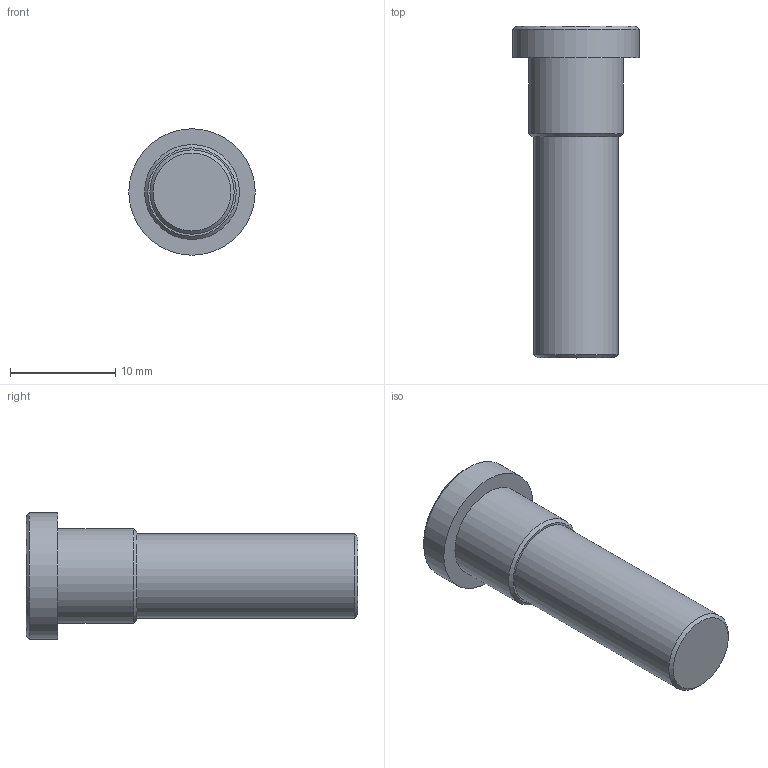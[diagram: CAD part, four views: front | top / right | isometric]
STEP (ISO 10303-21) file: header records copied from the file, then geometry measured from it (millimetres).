
FILE_DESCRIPTION((''),'2;1');
FILE_NAME('C:\Documents and Settings\rivolro1\Documenti\copia di Raccordi\PLASTICA\T09XX00\T090800.stp','2007-10-30T17:18:47',('Rivolro1'),(''),'Autodesk Inventor 2008','Autodesk Inventor 2008','');
FILE_SCHEMA(('AUTOMOTIVE_DESIGN { 1 0 10303 214 1 1 1 1 }'));
Length unit declared in the file: millimetre
Products named in the file (1): T090800
Bounding box: 12 x 31.5 x 12 mm (x, y, z)
Volume: 1868 mm3; surface area: 1062.8 mm2
Topology: 1 solids, 1 shells, 10 faces, 15 edges, 9 vertices
Faces by surface type: plane 4, cone 3, cylinder 3
Full cylindrical faces by diameter (mm): 8 x1, 9 x1, 12 x1
Entity records: 220 total; most frequent: DIRECTION 40, CARTESIAN_POINT 29, AXIS2_PLACEMENT_3D 20, ORIENTED_EDGE 18, EDGE_LOOP 18, FACE_OUTER_BOUND 10, ADVANCED_FACE 10, VERTEX_POINT 9
